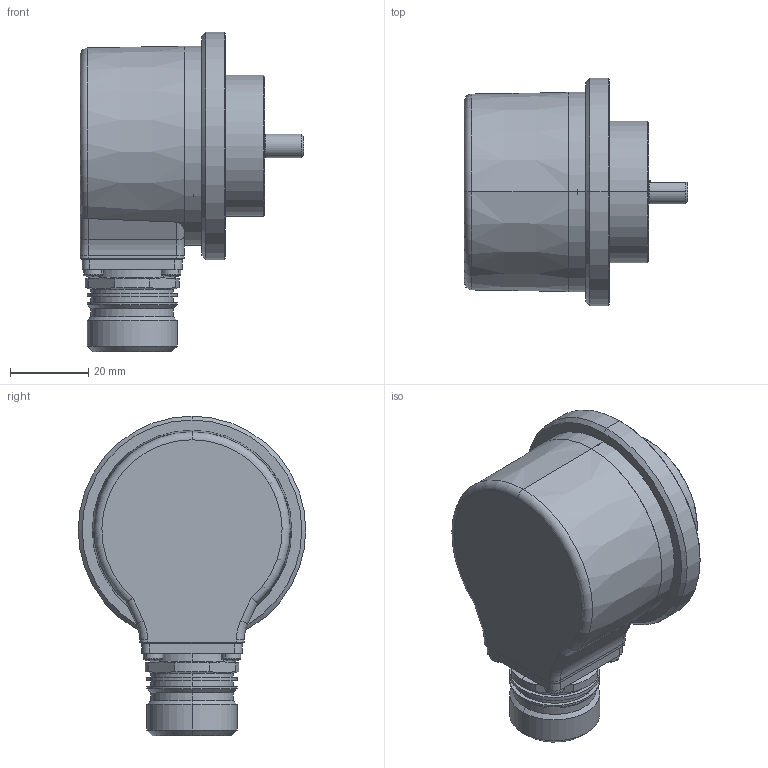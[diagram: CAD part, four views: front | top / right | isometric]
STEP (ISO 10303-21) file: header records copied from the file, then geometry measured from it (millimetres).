
FILE_DESCRIPTION (( 'STEP AP214' ), '1' );
FILE_NAME ('5000.81X8.XXXX.STEP', '2008-12-03T07:36:42', ( 'admin' ), ( 'Fritz Kübler GmbH' ), 'SwSTEP 2.0', 'SolidWorks 2008', '' );
FILE_SCHEMA (( 'AUTOMOTIVE_DESIGN' ));
Length unit declared in the file: millimetre
Products named in the file (1): 5000.81X8.XXXX
Bounding box: 57 x 58 x 81.5 mm (x, y, z)
Volume: 55660.3 mm3; surface area: 38876 mm2
Topology: 22 solids, 25 shells, 870 faces, 1978 edges, 1190 vertices
Faces by surface type: cylinder 362, plane 212, cone 141, torus 89, sphere 56, bspline 10
Entity records: 34776 total; most frequent: CARTESIAN_POINT 5175, DIRECTION 4606, ORIENTED_EDGE 3776, AXIS2_PLACEMENT_3D 1961, EDGE_CURVE 1888, VERTEX_POINT 1160, CIRCLE 1100, EDGE_LOOP 1028
